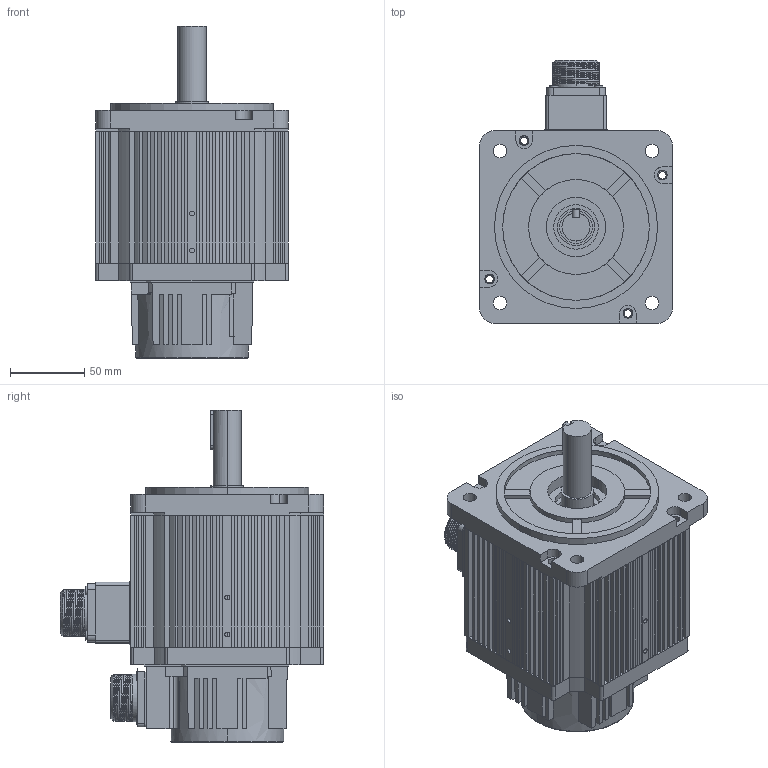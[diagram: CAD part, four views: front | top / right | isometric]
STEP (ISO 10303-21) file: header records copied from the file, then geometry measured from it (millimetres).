
FILE_DESCRIPTION (( 'STEP AP203' ), '1' );
FILE_NAME ('z130 1.0kW.STEP', '2010-04-02T05:40:40', ( '' ), ( '' ), 'SwSTEP 2.0', 'SolidWorks 2011', '' );
FILE_SCHEMA (( 'CONFIG_CONTROL_DESIGN' ));
Length unit declared in the file: millimetre
Products named in the file (1): z130 1.0kW
Bounding box: 130 x 177.5 x 224 mm (x, y, z)
Surface area: 260752.8 mm2 (no closed solid volume)
Topology: 0 solids, 30 shells, 784 faces, 2413 edges, 1657 vertices
Faces by surface type: plane 482, cylinder 269, bspline 26, cone 7
Entity records: 34446 total; most frequent: CARTESIAN_POINT 13624, DIRECTION 4138, ORIENTED_EDGE 4103, EDGE_CURVE 2381, VERTEX_POINT 1657, VECTOR 1578, LINE 1578, AXIS2_PLACEMENT_3D 1280
